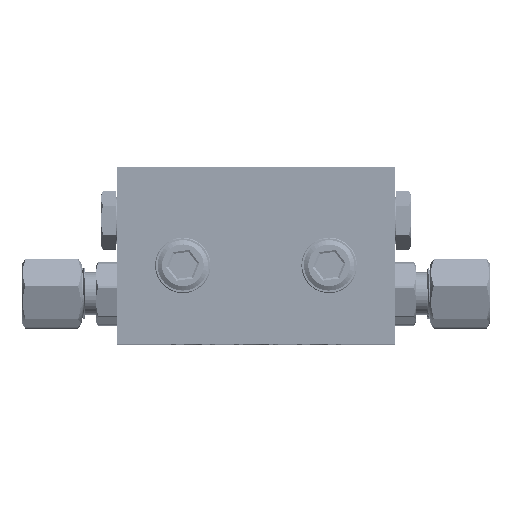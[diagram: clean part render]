
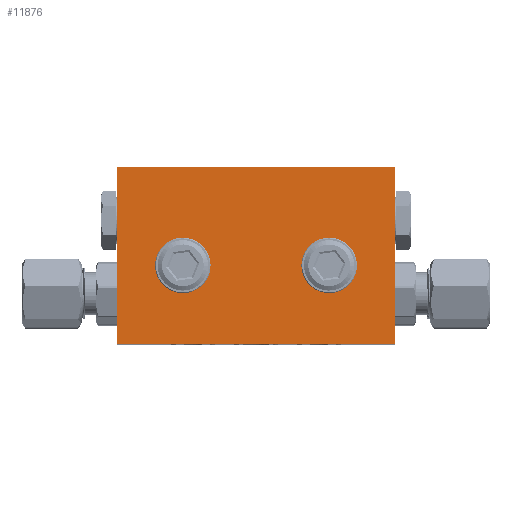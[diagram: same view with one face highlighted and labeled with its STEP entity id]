
A CAD part, top view. The second image highlights one B-rep face of the part: STEP entity #11876.
In plain terms, the highlighted planar face has unit normal (0, 0, 1) as drawn and (0, 0, -1) by its records, which use the part's own axes.
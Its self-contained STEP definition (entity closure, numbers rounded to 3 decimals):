
#979 = AXIS2_PLACEMENT_3D ( 'NONE', #24611, #33814, #31403 ) ;
#1083 = EDGE_CURVE ( 'NONE', #42474, #23790, #22421, .T. ) ;
#1186 = LINE ( 'NONE', #41180, #32640 ) ;
#3374 = FACE_OUTER_BOUND ( 'NONE', #11789, .T. ) ;
#4025 = DIRECTION ( 'NONE',  ( 1., 0., 0. ) ) ;
#4396 = ORIENTED_EDGE ( 'NONE', *, *, #20105, .F. ) ;
#4613 = AXIS2_PLACEMENT_3D ( 'NONE', #11329, #11761, #11989 ) ;
#5638 = ORIENTED_EDGE ( 'NONE', *, *, #1083, .F. ) ;
#6661 = CARTESIAN_POINT ( 'NONE',  ( 0., -35., -4.85 ) ) ;
#7303 = DIRECTION ( 'NONE',  ( 1., 0., 0. ) ) ;
#7982 = VECTOR ( 'NONE', #4025, 1000. ) ;
#8709 = CARTESIAN_POINT ( 'NONE',  ( -27.5, 0., -4.85 ) ) ;
#8987 = CARTESIAN_POINT ( 'NONE',  ( 0., 0., -4.85 ) ) ;
#11201 = VECTOR ( 'NONE', #25458, 1000. ) ;
#11218 = AXIS2_PLACEMENT_3D ( 'NONE', #16708, #26702, #7303 ) ;
#11329 = CARTESIAN_POINT ( 'NONE',  ( -14.5, -15.5, -4.85 ) ) ;
#11761 = DIRECTION ( 'NONE',  ( 0., 0., -1. ) ) ;
#11789 = EDGE_LOOP ( 'NONE', ( #4396, #5638, #29190, #18886 ) ) ;
#11876 = ADVANCED_FACE ( 'NONE', ( #19532, #30010, #3374 ), #39849, .F. ) ;
#11989 = DIRECTION ( 'NONE',  ( 1., 0., 0. ) ) ;
#13209 = CARTESIAN_POINT ( 'NONE',  ( -27.5, -35., -4.85 ) ) ;
#14461 = EDGE_CURVE ( 'NONE', #32982, #42474, #16139, .T. ) ;
#14728 = VERTEX_POINT ( 'NONE', #21101 ) ;
#16139 = LINE ( 'NONE', #8987, #24351 ) ;
#16708 = CARTESIAN_POINT ( 'NONE',  ( 0., 0., -4.85 ) ) ;
#17808 = DIRECTION ( 'NONE',  ( 0., 1., 0. ) ) ;
#18441 = CIRCLE ( 'NONE', #979, 3.1 ) ;
#18623 = VERTEX_POINT ( 'NONE', #35822 ) ;
#18886 = ORIENTED_EDGE ( 'NONE', *, *, #42003, .F. ) ;
#18960 = ORIENTED_EDGE ( 'NONE', *, *, #21407, .F. ) ;
#19532 = FACE_BOUND ( 'NONE', #30532, .T. ) ;
#19749 = CARTESIAN_POINT ( 'NONE',  ( 11.4, -15.5, -4.85 ) ) ;
#20105 = EDGE_CURVE ( 'NONE', #23790, #18623, #23027, .T. ) ;
#20858 = EDGE_LOOP ( 'NONE', ( #34438 ) ) ;
#21101 = CARTESIAN_POINT ( 'NONE',  ( -11.4, -15.5, -4.85 ) ) ;
#21407 = EDGE_CURVE ( 'NONE', #14728, #14728, #23424, .T. ) ;
#22421 = LINE ( 'NONE', #8709, #11201 ) ;
#23027 = LINE ( 'NONE', #6661, #7982 ) ;
#23424 = CIRCLE ( 'NONE', #4613, 3.1 ) ;
#23790 = VERTEX_POINT ( 'NONE', #13209 ) ;
#24351 = VECTOR ( 'NONE', #42767, 1000. ) ;
#24611 = CARTESIAN_POINT ( 'NONE',  ( 14.5, -15.5, -4.85 ) ) ;
#25458 = DIRECTION ( 'NONE',  ( 0., -1., 0. ) ) ;
#26702 = DIRECTION ( 'NONE',  ( 0., 0., 1. ) ) ;
#29190 = ORIENTED_EDGE ( 'NONE', *, *, #14461, .F. ) ;
#30010 = FACE_BOUND ( 'NONE', #20858, .T. ) ;
#30532 = EDGE_LOOP ( 'NONE', ( #18960 ) ) ;
#31403 = DIRECTION ( 'NONE',  ( -1., 0., 0. ) ) ;
#32640 = VECTOR ( 'NONE', #17808, 1000. ) ;
#32982 = VERTEX_POINT ( 'NONE', #40707 ) ;
#33814 = DIRECTION ( 'NONE',  ( 0., 0., -1. ) ) ;
#34438 = ORIENTED_EDGE ( 'NONE', *, *, #39677, .F. ) ;
#35822 = CARTESIAN_POINT ( 'NONE',  ( 27.5, -35., -4.85 ) ) ;
#36093 = CARTESIAN_POINT ( 'NONE',  ( -27.5, 0., -4.85 ) ) ;
#39677 = EDGE_CURVE ( 'NONE', #42887, #42887, #18441, .T. ) ;
#39849 = PLANE ( 'NONE',  #11218 ) ;
#40707 = CARTESIAN_POINT ( 'NONE',  ( 27.5, 0., -4.85 ) ) ;
#41180 = CARTESIAN_POINT ( 'NONE',  ( 27.5, 0., -4.85 ) ) ;
#42003 = EDGE_CURVE ( 'NONE', #18623, #32982, #1186, .T. ) ;
#42474 = VERTEX_POINT ( 'NONE', #36093 ) ;
#42767 = DIRECTION ( 'NONE',  ( -1., 0., 0. ) ) ;
#42887 = VERTEX_POINT ( 'NONE', #19749 ) ;
